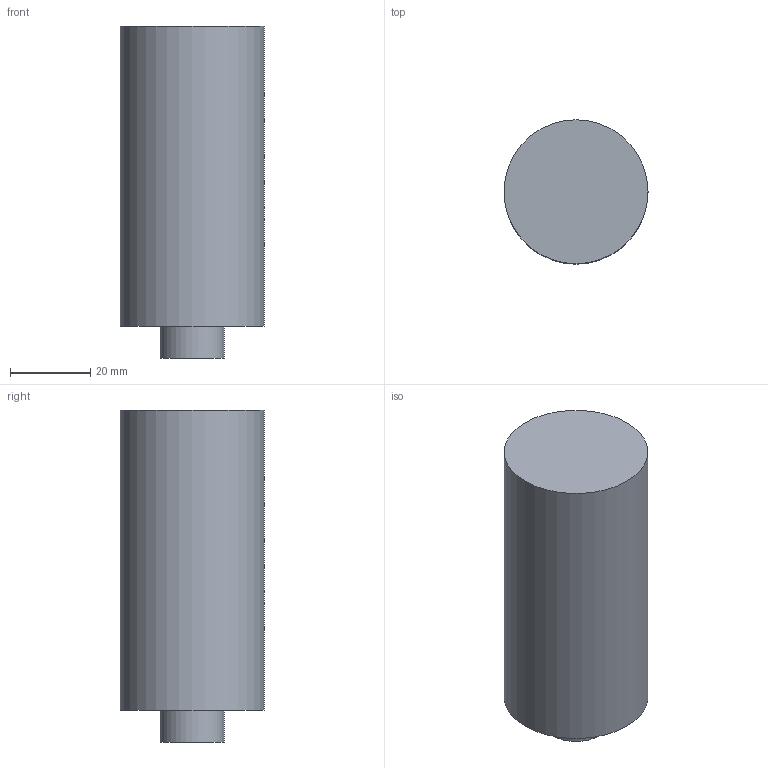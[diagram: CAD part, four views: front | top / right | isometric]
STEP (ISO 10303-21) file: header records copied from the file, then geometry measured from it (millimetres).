
FILE_DESCRIPTION(('Open CASCADE Model'),'2;1');
FILE_NAME('Open CASCADE Shape Model','2026-09-19T16:36:15',('Author'),( 'Open CASCADE'),'Open CASCADE STEP processor 7.8','Open CASCADE 7.8' ,'Unknown');
FILE_SCHEMA(('AUTOMOTIVE_DESIGN { 1 0 10303 214 1 1 1 1 }'));
Length unit declared in the file: millimetre
Products named in the file (1): Open CASCADE STEP translator 7.8 17
Bounding box: 36 x 36 x 83 mm (x, y, z)
Volume: 77949.2 mm3; surface area: 10920.2 mm2
Topology: 1 solids, 1 shells, 5 faces, 6 edges, 4 vertices
Faces by surface type: plane 3, cylinder 2
Full cylindrical faces by diameter (mm): 16 x1, 36 x1
Entity records: 192 total; most frequent: DIRECTION 34, CARTESIAN_POINT 28, ORIENTED_EDGE 12, PCURVE 12, DEFINITIONAL_REPRESENTATION 12, AXIS2_PLACEMENT_3D 10, LINE 10, VECTOR 10
